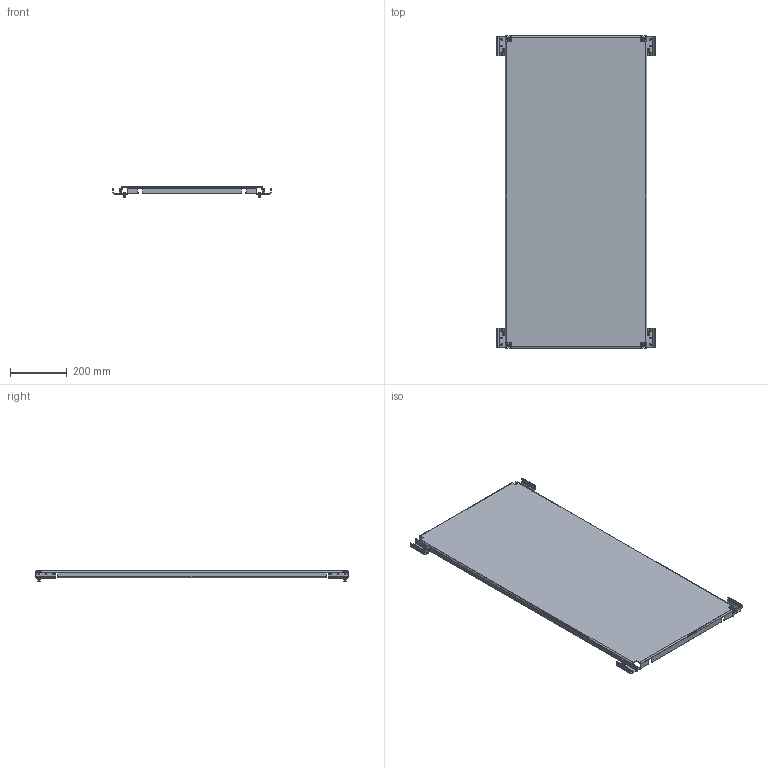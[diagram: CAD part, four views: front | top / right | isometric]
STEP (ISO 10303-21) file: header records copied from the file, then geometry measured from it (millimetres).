
FILE_DESCRIPTION (( 'STEP AP214' ), '1' );
FILE_NAME ('MSD 120.60 M ÑÁ Ïàíåëü ìîíòàæíàÿ ñåêöèîííàÿ â ñáîðå.STEP', '2024-06-14T12:09:04', ( '' ), ( '' ), 'SwSTEP 2.0', 'SolidWorks 2019', '' );
FILE_SCHEMA (( 'AUTOMOTIVE_DESIGN' ));
Length unit declared in the file: millimetre
Products named in the file (1): MSD 120.60 M ÑÁ Ïàíåëü ìîíòàæíàÿ ñåêöèîííàÿ â ñáîðå
Bounding box: 558 x 1099 x 36.58 mm (x, y, z)
Volume: 1651194.1 mm3; surface area: 1337731.7 mm2
Topology: 13 solids, 13 shells, 790 faces, 1924 edges, 1176 vertices
Faces by surface type: plane 358, cylinder 344, torus 48, bspline 16, cone 16, sphere 8
Entity records: 37512 total; most frequent: CARTESIAN_POINT 10079, DIRECTION 3998, ORIENTED_EDGE 3832, EDGE_CURVE 1916, AXIS2_PLACEMENT_3D 1487, VERTEX_POINT 1176, LINE 1024, VECTOR 1024
